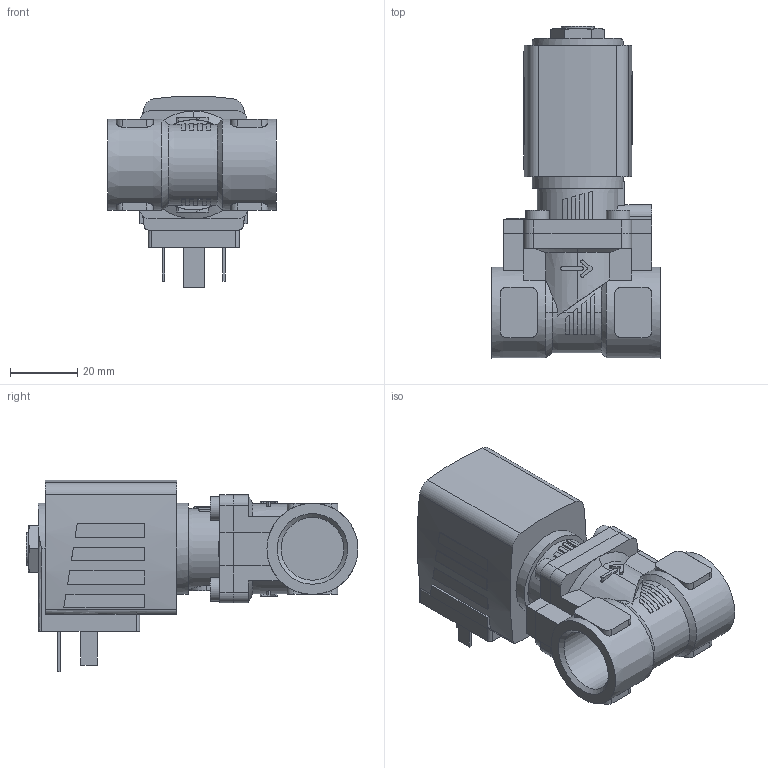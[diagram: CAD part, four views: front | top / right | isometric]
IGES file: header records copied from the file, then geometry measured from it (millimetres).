
Start section: Data from Parasolid IGES Translator 26.0.171, Copyright(c) 2006 Siemens PLM Software. All Rights Reserved.
Global section: file name: 6281-338129-2_2-Way_Solenoid_Valve__Servo-assisted__General_Purpose.igs; native system: By Siemens PLM Incorporated; preprocessor: XPlus GENERIC/IGES 26.0.171; author: Noname; organization: Noname; date: 20240514.164140; units: millimetre
Bounding box: 50 x 98.5 x 56.91 mm (x, y, z)
Surface area: 23816.9 mm2 (no closed solid volume)
Topology: 0 solids, 0 shells, 340 faces, 1764 edges, 1745 vertices
Faces by surface type: extrusion 226, revolution 114
